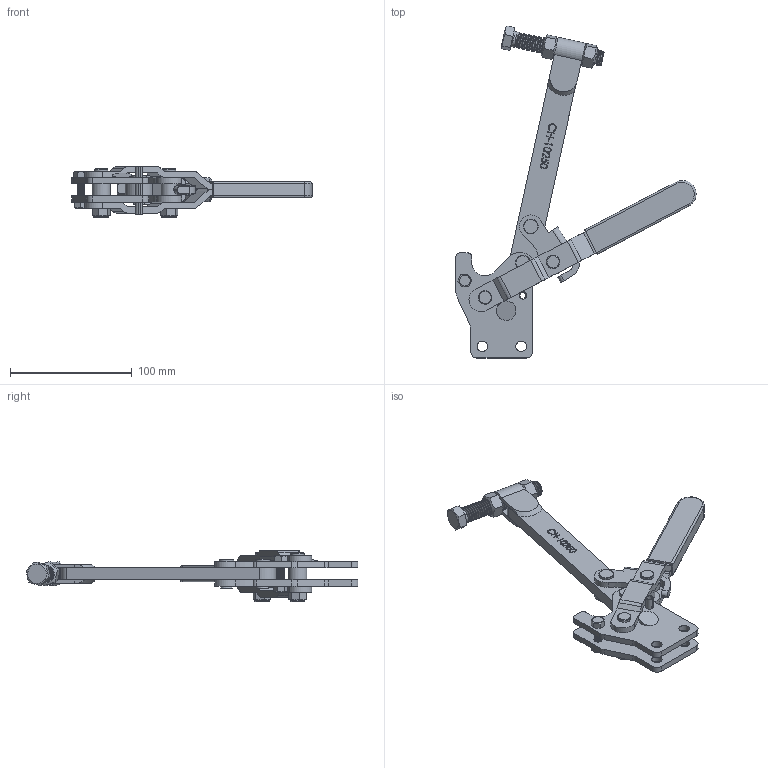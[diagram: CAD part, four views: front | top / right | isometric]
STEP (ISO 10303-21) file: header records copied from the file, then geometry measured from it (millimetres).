
FILE_DESCRIPTION(/* description */ ('STEP AP203'),/* implementation_level */ '2;1');
FILE_NAME(/* name */ 'D:\Vault_2016\Projekty\NASZ KATALOG\CLAMPTEK\STRONA\Vertical toggle clamp\CH-10250\CH-10250_OTWARTY.stp',/* time_stamp */ '2019-01-18T14:26:33+01:00',/* author */ ('CADENGINEERING4'),/* organization */ ('Î¢ÈíÖÐ¹ú'),/* preprocessor_version */ 'ST-DEVELOPER v17.2',/* originating_system */ 'Autodesk Inventor 2019',/* authorisation */ '');
FILE_SCHEMA (('AUTOMOTIVE_DESIGN { 1 0 10303 214 3 1 1 }'));
Products named in the file (17): CH-10250_OTWARTY; CH-10247-09; M6 Nut; CH-10248-01 STRAIGHT BASE; M6X25; CH-10247-03 HANDLE; CH-SA-12300 SPINDLE SUPPLIED; CH-10250-02 SOLID BAR_Ä¬ÈÏ_°´¼
Ó¹¤_; CH-10247-05; CH-10247-11; CH-SA-12300 NUT; CH-10247-04 CONNECTING-PLATE; CH-10247-07; CH-10247-08; CH-10247-10; CH-10247-06; 3-8-16 LOCK NUT
Assembly tree (21 placements, depth 2):
  CH-10250_OTWARTY
    CH-10247-09
    M6 Nut
    CH-10248-01 STRAIGHT BASE
    M6X25
    CH-10247-06  x2
    CH-10247-08  x2
    CH-SA-12300 NUT  x2
    CH-10247-03 HANDLE
    CH-SA-12300 SPINDLE SUPPLIED
    CH-10250-02 SOLID BAR_Ä¬ÈÏ_°´¼
Ó¹¤_
    CH-10247-11  x2
    CH-10247-05
    CH-10247-04 CONNECTING-PLATE
    CH-10247-07
    CH-10247-10
    3-8-16 LOCK NUT  x2
Bounding box: 197.23 x 272.64 x 42.5 mm (x, y, z)
Volume: 172506.9 mm3; surface area: 101281 mm2
Topology: 26 solids, 26 shells, 799 faces, 2229 edges, 1517 vertices
Faces by surface type: plane 326, cylinder 210, bspline 191, cone 66, torus 6
Full cylindrical faces by diameter (mm): 3.183 x1, 3.751 x1, 4.8 x5, 6 x24, 6.6 x2, 8 x8, 8.5 x8, 8.7 x4, 9.5 x16, 10.5 x8, 11 x6, 12 x4, 12.3 x4, 12.7 x36, 12.8 x1, 15 x1
Entity records: 59890 total; most frequent: CARTESIAN_POINT 41919, ORIENTED_EDGE 4038, DIRECTION 2932, EDGE_CURVE 2019, VERTEX_POINT 1372, LINE 1000, VECTOR 1000, AXIS2_PLACEMENT_3D 966
